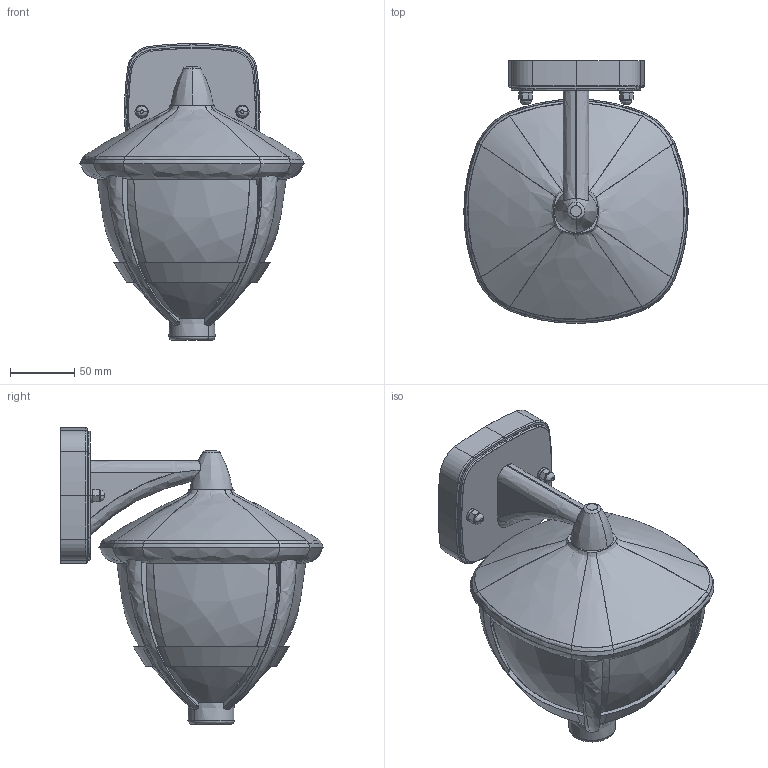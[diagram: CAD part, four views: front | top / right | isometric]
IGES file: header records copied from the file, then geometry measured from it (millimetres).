
Start section: SolidWorks IGES file using analytic representation for surfaces
Global section: file name: C:\Users\anna.bielnik\Desktop\modele 3D tymczasowe\AMELIA\AMELIA-10495\AMELIA-10495 b.IGS; native system: SolidWorks 2023; preprocessor: SolidWorks 2023; author: anna.bielnik; date: 230821.083115; units: millimetre
Bounding box: 174.02 x 203.79 x 230.09 mm (x, y, z)
Surface area: 260393.7 mm2 (no closed solid volume)
Topology: 0 solids, 0 shells, 280 faces, 3080 edges, 3060 vertices
Faces by surface type: bspline 211, revolution 69
